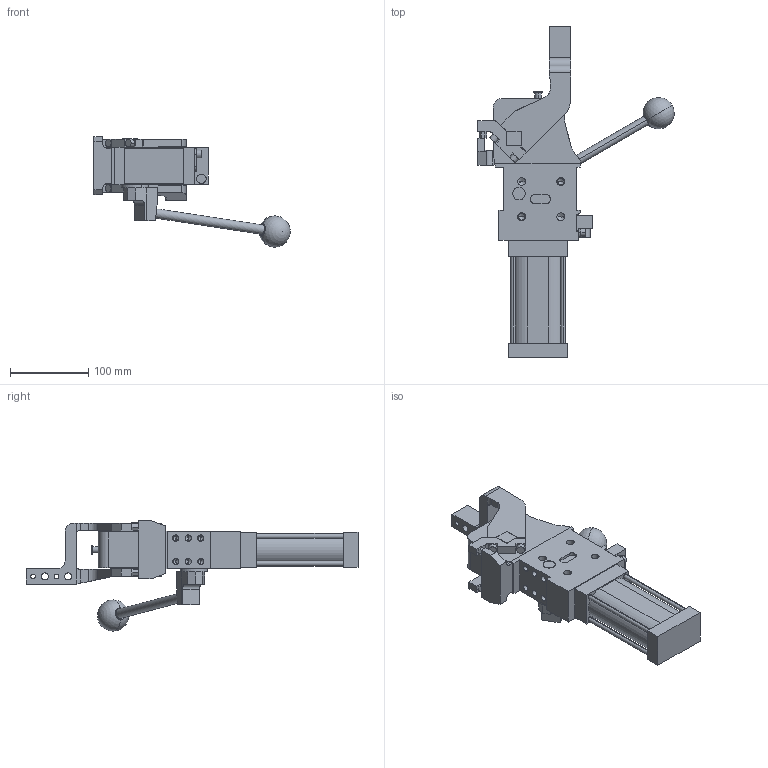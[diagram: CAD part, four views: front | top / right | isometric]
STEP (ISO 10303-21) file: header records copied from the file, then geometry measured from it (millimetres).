
FILE_DESCRIPTION (( 'STEP AP214' ), '1' );
FILE_NAME ('cplm50lbth3dsi1g_75.STEP', '2023-01-26T14:04:14', ( '' ), ( '' ), 'SwSTEP 2.0', 'SolidWorks 2022', '' );
FILE_SCHEMA (( 'AUTOMOTIVE_DESIGN' ));
Length unit declared in the file: millimetre
Products named in the file (5): leva_h3ds_cpl50t; cplm50lbth3dsi1g_75; comando_manuale_cplm_50; meccanica_cplm_50_tassello_esterno; blocchetto_VEP_0
Assembly tree (4 placements, depth 2):
  cplm50lbth3dsi1g_75
    meccanica_cplm_50_tassello_esterno
    blocchetto_VEP_0
    leva_h3ds_cpl50t
    comando_manuale_cplm_50
Bounding box: 250.96 x 424.5 x 141 mm (x, y, z)
Volume: 1523891.4 mm3; surface area: 194396.9 mm2
Topology: 4 solids, 4 shells, 470 faces, 1219 edges, 765 vertices
Faces by surface type: plane 245, cylinder 173, cone 50, sphere 2
Entity records: 15621 total; most frequent: CARTESIAN_POINT 2510, DIRECTION 2469, ORIENTED_EDGE 2336, EDGE_CURVE 1168, AXIS2_PLACEMENT_3D 839, LINE 791, VECTOR 791, VERTEX_POINT 762
